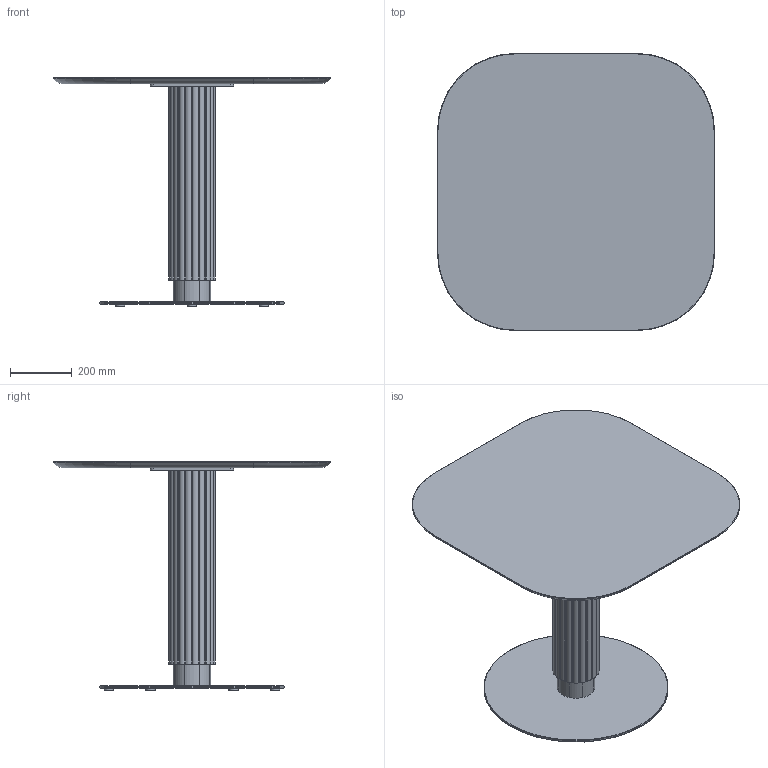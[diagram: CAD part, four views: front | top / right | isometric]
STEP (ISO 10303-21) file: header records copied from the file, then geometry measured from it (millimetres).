
FILE_DESCRIPTION( ('This file contains a STEP AP42 implementation' ,'as created by ZW3D STEP Interface translator.') ,'2;1' );
FILE_NAME( 'Godron - B_Rond - F2 - M3 - 900 x 900 x 750.stp' ,'24 912.12 451', (''), ('ZWCAD Software Co.'), 'Version 1.0', 'ZW3D to STEP translator', '' );
FILE_SCHEMA(('AUTOMOTIVE_DESIGN { 1 0 10303 214 1 1 1 1 }'));
Length unit declared in the file: millimetre
Products named in the file (15): 0; PIED BISTROT PARAMETRIQUE_; CROIX ACIER 370 V.02_; CRX-X370-02_; SOCLE ACIER C Ø600 V.02_; SCL-D600-02_; PLA-R30A-01_; PLA-R30A-01; COLONNE ACIER Ø48.5 V.02_; TUB-D048-02_; PLA-R48A-01_; Colonne GODRON H700_; WUERTH 0276063020 Euro-screw 6.3x2 Verzinkt_; PLATEAU BISTROT PARAMETRIQUE_; insert_m6_13_
Assembly tree (25 placements, depth 3):
  0
  PIED BISTROT PARAMETRIQUE_
    CROIX ACIER 370 V.02_
      CRX-X370-02_
    SOCLE ACIER C Ø600 V.02_
      SCL-D600-02_
      PLA-R30A-01_
      PLA-R30A-01  x5
    COLONNE ACIER Ø48.5 V.02_
      TUB-D048-02_
      PLA-R48A-01_  x2
    Colonne GODRON H700_
    WUERTH 0276063020 Euro-screw 6.3x2 Verzinkt_
    PLATEAU BISTROT PARAMETRIQUE_
      insert_m6_13_  x8
Bounding box: 900 x 900 x 744 mm (x, y, z)
Volume: 27968911.5 mm3; surface area: 3537394.6 mm2
Topology: 29 solids, 29 shells, 656 faces, 1625 edges, 1042 vertices
Faces by surface type: plane 290, cylinder 197, bspline 121, cone 43, torus 5
Full cylindrical faces by diameter (mm): 4.88 x1, 6 x8, 6.3 x1, 8 x47, 12 x2, 14 x2, 30 x6, 44.5 x3, 48.5 x1, 600 x1
Entity records: 16242 total; most frequent: CARTESIAN_POINT 4039, DIRECTION 2257, ORIENTED_EDGE 2240, EDGE_CURVE 1120, AXIS2_PLACEMENT_3D 808, VERTEX_POINT 728, VECTOR 641, LINE 641
